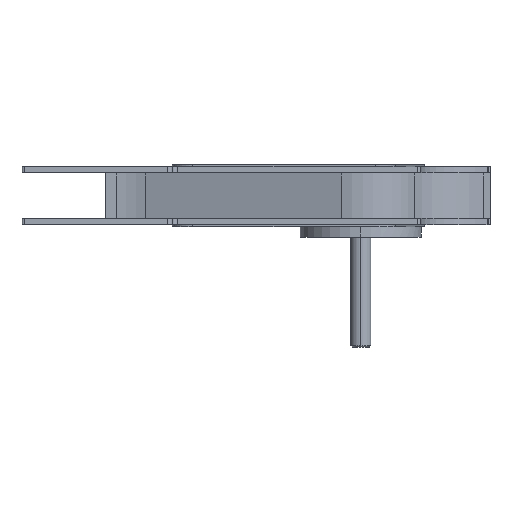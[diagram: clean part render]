
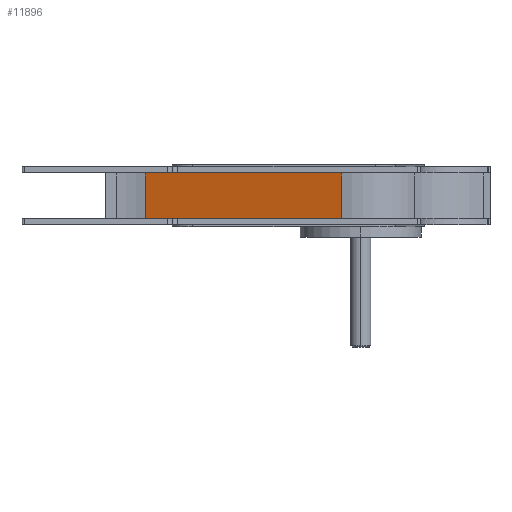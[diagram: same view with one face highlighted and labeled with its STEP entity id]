
A CAD part, front view. The second image highlights one B-rep face of the part: STEP entity #11896.
In plain terms, the highlighted planar face has unit normal (-0.304, -0.953, 0).
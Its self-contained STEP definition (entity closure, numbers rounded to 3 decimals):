
#259 = CARTESIAN_POINT ( 'NONE',  ( -341.141, -37.401, -391.649 ) ) ;
#1110 = CARTESIAN_POINT ( 'NONE',  ( -341.141, -37.401, -22.5 ) ) ;
#1155 = LINE ( 'NONE', #17566, #10125 ) ;
#1340 = EDGE_CURVE ( 'NONE', #10093, #13637, #6152, .T. ) ;
#1814 = ORIENTED_EDGE ( 'NONE', *, *, #15758, .T. ) ;
#1896 = PLANE ( 'NONE',  #3463 ) ;
#2435 = EDGE_CURVE ( 'NONE', #10093, #13757, #11745, .T. ) ;
#2817 = VECTOR ( 'NONE', #9080, 1000. ) ;
#3309 = DIRECTION ( 'NONE',  ( -0.304, -0.953, 0. ) ) ;
#3463 = AXIS2_PLACEMENT_3D ( 'NONE', #4675, #3309, #10402 ) ;
#4675 = CARTESIAN_POINT ( 'NONE',  ( -341.141, -37.401, -391.649 ) ) ;
#5963 = FACE_OUTER_BOUND ( 'NONE', #14418, .T. ) ;
#6152 = LINE ( 'NONE', #259, #2817 ) ;
#7333 = EDGE_CURVE ( 'NONE', #13637, #18028, #9096, .T. ) ;
#7986 = DIRECTION ( 'NONE',  ( 0.953, -0.304, 0. ) ) ;
#9080 = DIRECTION ( 'NONE',  ( 0., 0., 1. ) ) ;
#9096 = LINE ( 'NONE', #14721, #11122 ) ;
#9599 = ORIENTED_EDGE ( 'NONE', *, *, #1340, .F. ) ;
#10093 = VERTEX_POINT ( 'NONE', #16825 ) ;
#10125 = VECTOR ( 'NONE', #15973, 1000. ) ;
#10402 = DIRECTION ( 'NONE',  ( 0.953, -0.304, 0. ) ) ;
#11122 = VECTOR ( 'NONE', #16362, 1000. ) ;
#11745 = LINE ( 'NONE', #1110, #16454 ) ;
#11896 = ADVANCED_FACE ( 'NONE', ( #5963 ), #1896, .T. ) ;
#12628 = CARTESIAN_POINT ( 'NONE',  ( -146.393, -99.538, 22.5 ) ) ;
#13637 = VERTEX_POINT ( 'NONE', #17094 ) ;
#13757 = VERTEX_POINT ( 'NONE', #14457 ) ;
#14418 = EDGE_LOOP ( 'NONE', ( #9599, #17579, #1814, #15245 ) ) ;
#14457 = CARTESIAN_POINT ( 'NONE',  ( -146.393, -99.538, -22.5 ) ) ;
#14721 = CARTESIAN_POINT ( 'NONE',  ( -341.141, -37.401, 22.5 ) ) ;
#15245 = ORIENTED_EDGE ( 'NONE', *, *, #7333, .F. ) ;
#15758 = EDGE_CURVE ( 'NONE', #13757, #18028, #1155, .T. ) ;
#15973 = DIRECTION ( 'NONE',  ( 0., 0., 1. ) ) ;
#16362 = DIRECTION ( 'NONE',  ( 0.953, -0.304, 0. ) ) ;
#16454 = VECTOR ( 'NONE', #7986, 1000. ) ;
#16825 = CARTESIAN_POINT ( 'NONE',  ( -341.141, -37.401, -22.5 ) ) ;
#17094 = CARTESIAN_POINT ( 'NONE',  ( -341.141, -37.401, 22.5 ) ) ;
#17566 = CARTESIAN_POINT ( 'NONE',  ( -146.393, -99.538, -391.649 ) ) ;
#17579 = ORIENTED_EDGE ( 'NONE', *, *, #2435, .T. ) ;
#18028 = VERTEX_POINT ( 'NONE', #12628 ) ;
